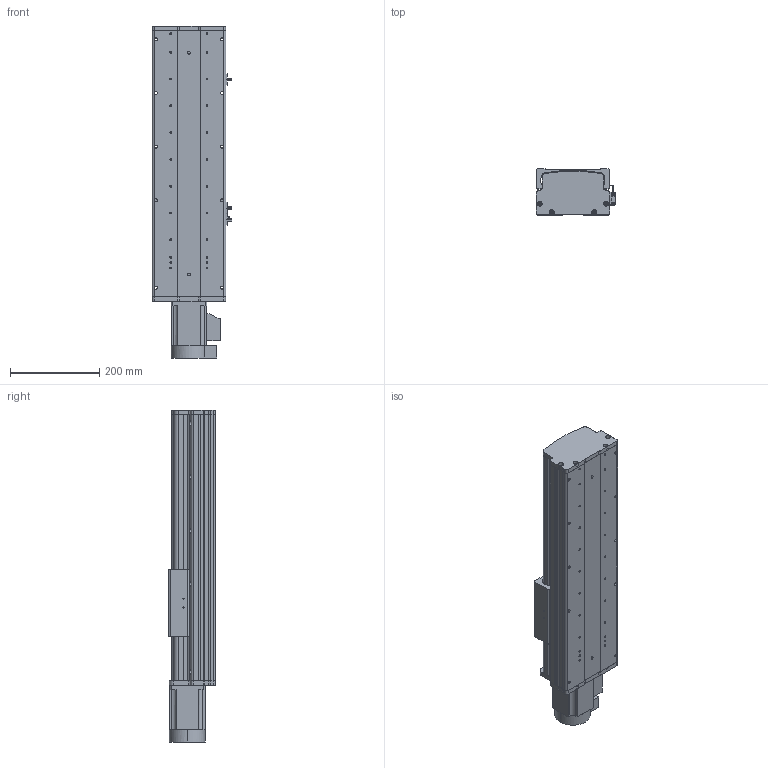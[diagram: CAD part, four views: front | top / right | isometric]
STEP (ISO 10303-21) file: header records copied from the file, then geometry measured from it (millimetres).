
FILE_DESCRIPTION (( 'STEP AP214' ), '1' );
FILE_NAME ('KSD165S-S300-MN-CM.STEP', '2017-08-07T08:05:55', ( '微软用户' ), ( '微软中国' ), 'SwSTEP 2.0', 'SolidWorks 2014', '' );
FILE_SCHEMA (( 'AUTOMOTIVE_DESIGN' ));
Length unit declared in the file: millimetre
Products named in the file (12): 拸秶雄ん750W侜督萇儂; KSD165模组-防尘盖1-300行程-直连不带电机座; KSD165模组底板-300行程-直连不带电机座; KSD165模组-直连不带电机座电机连接板; KSD165耀郪-佪裝-滅袉菜-3 -; C44ㄜ1912WP; 覜茼え68遵圉猾敕; U倰嫖萇假蚾璃; U倰嫖萇EEㄜSX672; KSD165耀郪-綴傷啣1; KSD165模组-丝杆滑动座-最新版; KSD165S-S300-MN-CM
Assembly tree (15 placements, depth 2):
  KSD165S-S300-MN-CM
    KSD165模组-丝杆滑动座-最新版
    KSD165耀郪-綴傷啣1
    U倰嫖萇EEㄜSX672  x3
    U倰嫖萇假蚾璃  x3
    覜茼え68遵圉猾敕
    C44ㄜ1912WP
    KSD165耀郪-佪裝-滅袉菜-3 -
    KSD165模组-直连不带电机座电机连接板
    KSD165模组底板-300行程-直连不带电机座
    KSD165模组-防尘盖1-300行程-直连不带电机座
    拸秶雄ん750W侜督萇儂
Bounding box: 178.7 x 104 x 743 mm (x, y, z)
Volume: 4710325.9 mm3; surface area: 1005278.1 mm2
Topology: 16 solids, 16 shells, 1151 faces, 3208 edges, 2077 vertices
Faces by surface type: cylinder 587, plane 487, cone 77
Entity records: 35687 total; most frequent: CARTESIAN_POINT 8019, DIRECTION 5313, ORIENTED_EDGE 5096, EDGE_CURVE 2548, AXIS2_PLACEMENT_3D 1979, VERTEX_POINT 1669, VECTOR 1355, LINE 1355
